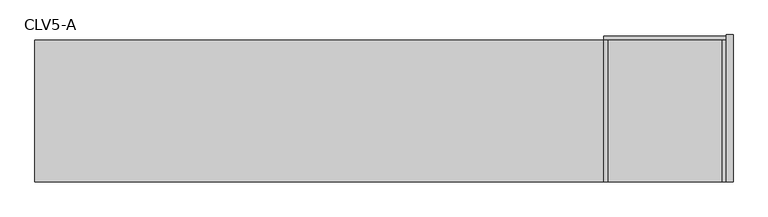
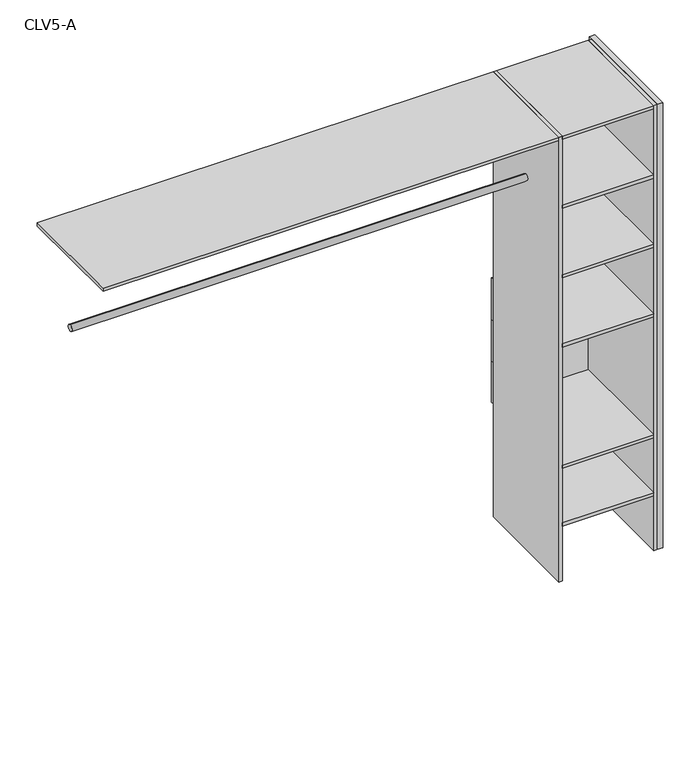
"""IFC4 building model written with IfcOpenShell, lengths in millimetres: furniture geometry, Closet 1estantes-1tubos_lateral estante : CLV5-A."""

from ifc_helpers import new_model, si_unit, point, frame, frame_2d, origin, origin_with_axes, place, context, project, spatial, polyline, circle_curve, trimmed, segment, composite_curve, outline, extrude, source, transform, mapped, element, save


def clv5_a_d960358b(model_context):
    return source(origin(), model_context, "Body", "SweptSolid", [
        extrude(outline(polyline([(250.0, -60.0), (250.0, -600.0), (225.0, -600.0), (225.0, -60.0), (250.0, -60.0)])), origin_with_axes(), (0.0, 0.0, 1.0), 2150.0),
        extrude(outline(polyline([(225.0, -80.0), (225.0, -600.0), (210.0, -600.0), (210.0, -80.0), (225.0, -80.0)])), origin_with_axes(), (0.0, 0.0, 1.0), 2150.0),
        extrude(outline(polyline([(-210.0, -80.0), (-210.0, -600.0), (-225.0, -600.0), (-225.0, -80.0), (-210.0, -80.0)])), origin_with_axes(), (0.0, 0.0, 1.0), 2150.0),
        extrude(outline(polyline([(225.0, -80.0), (-225.0, -80.0), (-225.0, -65.0), (225.0, -65.0), (225.0, -80.0)])), frame((0.0, 0.0, 945.0), z_axis=(0.0, 0.0, 1.0), x_axis=(1.0, 0.0, 0.0)), (0.0, 0.0, 1.0), 200.0),
        extrude(outline(polyline([(225.0, -80.0), (-225.0, -80.0), (-225.0, -65.0), (225.0, -65.0), (225.0, -80.0)])), frame((0.0, 0.0, 745.0), z_axis=(0.0, 0.0, 1.0), x_axis=(1.0, 0.0, 0.0)), (0.0, 0.0, 1.0), 200.0),
        extrude(outline(polyline([(225.0, -80.0), (-225.0, -80.0), (-225.0, -65.0), (225.0, -65.0), (225.0, -80.0)])), frame((0.0, 0.0, 545.0), z_axis=(0.0, 0.0, 1.0), x_axis=(1.0, 0.0, 0.0)), (0.0, 0.0, 1.0), 200.0),
        extrude(outline(polyline([(210.0, -80.0), (210.0, -600.0), (-210.0, -600.0), (-210.0, -80.0), (210.0, -80.0)])), frame((0.0, 0.0, 1130.0), z_axis=(0.0, 0.0, 1.0), x_axis=(1.0, 0.0, 0.0)), (0.0, 0.0, 1.0), 15.0),
        extrude(outline(composite_curve([segment(trimmed(circle_curve(frame_2d((-340.0, 1800.0)), 15.0), [point((-340.0, 1815.0))], [point((-340.0, 1785.0))], False, "CARTESIAN"), True, "CONTINUOUS"), segment(trimmed(circle_curve(frame_2d((-340.0, 1800.0)), 15.0), [point((-340.0, 1785.0))], [point((-340.0, 1815.0))], False, "CARTESIAN"), True, "CONTINUOUS")], self_intersect=False)), frame((-2310.0, 0.0, 0.0), z_axis=(1.0, 0.0, 0.0), x_axis=(0.0, 1.0, 0.0)), (0.0, 0.0, 1.0), 2085.0),
        extrude(outline(composite_curve([segment(trimmed(circle_curve(frame_2d((-340.0, 1800.0)), 15.0), [point((-340.0, 1815.0))], [point((-340.0, 1785.0))], False, "CARTESIAN"), True, "CONTINUOUS"), segment(trimmed(circle_curve(frame_2d((-340.0, 1800.0)), 15.0), [point((-340.0, 1785.0))], [point((-340.0, 1815.0))], False, "CARTESIAN"), True, "CONTINUOUS")], self_intersect=False)), frame((-2310.0, 0.0, 0.0), z_axis=(1.0, 0.0, 0.0), x_axis=(0.0, 1.0, 0.0)), (0.0, 0.0, 1.0), 2085.0),
        extrude(outline(polyline([(210.0, -80.0), (210.0, -600.0), (-210.0, -600.0), (-210.0, -80.0), (210.0, -80.0)])), frame((0.0, 0.0, 265.0), z_axis=(0.0, 0.0, 1.0), x_axis=(1.0, 0.0, 0.0)), (0.0, 0.0, 1.0), 15.0),
        extrude(outline(polyline([(210.0, -80.0), (210.0, -600.0), (-210.0, -600.0), (-210.0, -80.0), (210.0, -80.0)])), frame((0.0, 0.0, 545.0), z_axis=(0.0, 0.0, 1.0), x_axis=(1.0, 0.0, 0.0)), (0.0, 0.0, 1.0), 15.0),
        extrude(outline(polyline([(210.0, -80.0), (210.0, -600.0), (-210.0, -600.0), (-210.0, -80.0), (210.0, -80.0)])), frame((0.0, 0.0, 1465.0), z_axis=(0.0, 0.0, 1.0), x_axis=(1.0, 0.0, 0.0)), (0.0, 0.0, 1.0), 15.0),
        extrude(outline(polyline([(210.0, -80.0), (210.0, -600.0), (-210.0, -600.0), (-210.0, -80.0), (210.0, -80.0)])), frame((0.0, 0.0, 1800.0), z_axis=(0.0, 0.0, 1.0), x_axis=(1.0, 0.0, 0.0)), (0.0, 0.0, 1.0), 15.0),
        extrude(outline(polyline([(-210.0, -80.0), (-210.0, -600.0), (-2310.0, -600.0), (-2310.0, -80.0), (-210.0, -80.0)])), frame((0.0, 0.0, 2135.0), z_axis=(0.0, 0.0, 1.0), x_axis=(1.0, 0.0, 0.0)), (0.0, 0.0, 1.0), 15.0),
        extrude(outline(polyline([(210.0, -80.0), (210.0, -600.0), (-210.0, -600.0), (-210.0, -80.0), (210.0, -80.0)])), frame((0.0, 0.0, 2135.0), z_axis=(0.0, 0.0, 1.0), x_axis=(1.0, 0.0, 0.0)), (0.0, 0.0, 1.0), 15.0),
    ])


if __name__ == "__main__":
    model = new_model("IFC4")
    model_context = context("Model", 3, world=origin())
    ifc_project = project(units=[si_unit("LENGTHUNIT", "METRE", prefix="MILLI")], contexts=[model_context])
    site = spatial("IfcSite", under=ifc_project)
    building = spatial("IfcBuilding", under=site)
    placement = place(None, origin())
    clv5_a_shape = clv5_a_d960358b(model_context)
    element("IfcFurniture", 1, ObjectType="Closet 1estantes-1tubos_lateral estante : CLV5-A", at=placement, inside=building, context=model_context, shape_type="MappedRepresentation", body=[
        mapped(clv5_a_shape, transform((0.0, 0.0, 0.0), x_axis=(1.0, 0.0, 0.0), y_axis=(0.0, 1.0, 0.0), z_axis=(0.0, 0.0, 1.0))),
    ])
    save(model, "model.ifc")
